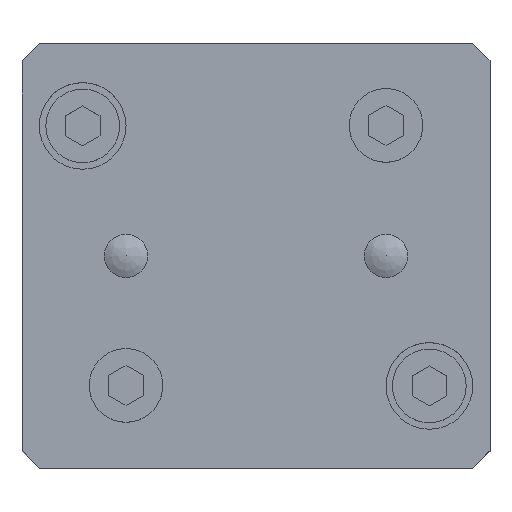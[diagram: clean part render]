
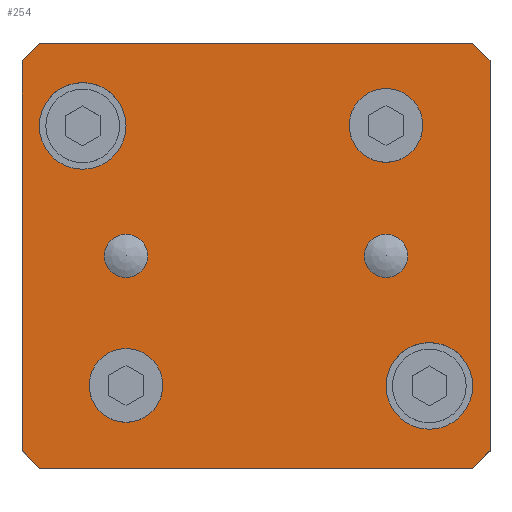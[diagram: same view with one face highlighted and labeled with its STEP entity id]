
A CAD part, top view. The second image highlights one B-rep face of the part: STEP entity #254.
In plain terms, the highlighted planar face has unit normal (0, 0, 1).
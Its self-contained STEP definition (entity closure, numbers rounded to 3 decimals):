
#254 = ADVANCED_FACE( '', ( #553, #554, #555, #556, #557, #558, #559 ), #560, .F. );
#553 = FACE_BOUND( '', #938, .T. );
#554 = FACE_BOUND( '', #939, .T. );
#555 = FACE_BOUND( '', #940, .T. );
#556 = FACE_BOUND( '', #941, .T. );
#557 = FACE_BOUND( '', #942, .T. );
#558 = FACE_BOUND( '', #943, .T. );
#559 = FACE_OUTER_BOUND( '', #944, .T. );
#560 = PLANE( '', #945 );
#938 = EDGE_LOOP( '', ( #1526 ) );
#939 = EDGE_LOOP( '', ( #1527 ) );
#940 = EDGE_LOOP( '', ( #1528 ) );
#941 = EDGE_LOOP( '', ( #1529 ) );
#942 = EDGE_LOOP( '', ( #1530 ) );
#943 = EDGE_LOOP( '', ( #1531 ) );
#944 = EDGE_LOOP( '', ( #1532, #1533, #1534, #1535, #1536, #1537, #1538, #1539 ) );
#945 = AXIS2_PLACEMENT_3D( '', #1540, #1541, #1542 );
#1526 = ORIENTED_EDGE( '', *, *, #1861, .F. );
#1527 = ORIENTED_EDGE( '', *, *, #1809, .T. );
#1528 = ORIENTED_EDGE( '', *, *, #1784, .F. );
#1529 = ORIENTED_EDGE( '', *, *, #1821, .F. );
#1530 = ORIENTED_EDGE( '', *, *, #1646, .T. );
#1531 = ORIENTED_EDGE( '', *, *, #1806, .T. );
#1532 = ORIENTED_EDGE( '', *, *, #1753, .F. );
#1533 = ORIENTED_EDGE( '', *, *, #1782, .T. );
#1534 = ORIENTED_EDGE( '', *, *, #1825, .F. );
#1535 = ORIENTED_EDGE( '', *, *, #1732, .T. );
#1536 = ORIENTED_EDGE( '', *, *, #1757, .F. );
#1537 = ORIENTED_EDGE( '', *, *, #1819, .T. );
#1538 = ORIENTED_EDGE( '', *, *, #1815, .F. );
#1539 = ORIENTED_EDGE( '', *, *, #1844, .T. );
#1540 = CARTESIAN_POINT( '', ( -27., 24.5, 0. ) );
#1541 = DIRECTION( '', ( 0., 0., -1. ) );
#1542 = DIRECTION( '', ( 0., 1., 0. ) );
#1646 = EDGE_CURVE( '', #1892, #1892, #1893, .T. );
#1732 = EDGE_CURVE( '', #2037, #2035, #2038, .F. );
#1753 = EDGE_CURVE( '', #2069, #2071, #2072, .T. );
#1757 = EDGE_CURVE( '', #2076, #2035, #2077, .T. );
#1782 = EDGE_CURVE( '', #2069, #2112, #2114, .F. );
#1784 = EDGE_CURVE( '', #2116, #2116, #2117, .T. );
#1806 = EDGE_CURVE( '', #2144, #2144, #2145, .T. );
#1809 = EDGE_CURVE( '', #2149, #2149, #2150, .T. );
#1815 = EDGE_CURVE( '', #2157, #2159, #2160, .T. );
#1819 = EDGE_CURVE( '', #2076, #2159, #2164, .F. );
#1821 = EDGE_CURVE( '', #2166, #2166, #2167, .T. );
#1825 = EDGE_CURVE( '', #2037, #2112, #2171, .T. );
#1844 = EDGE_CURVE( '', #2157, #2071, #2192, .F. );
#1861 = EDGE_CURVE( '', #2213, #2213, #2214, .T. );
#1892 = VERTEX_POINT( '', #2252 );
#1893 = CIRCLE( '', #2253, 5. );
#2035 = VERTEX_POINT( '', #2471 );
#2037 = VERTEX_POINT( '', #2474 );
#2038 = LINE( '', #2475, #2476 );
#2069 = VERTEX_POINT( '', #2547 );
#2071 = VERTEX_POINT( '', #2550 );
#2072 = LINE( '', #2551, #2552 );
#2076 = VERTEX_POINT( '', #2557 );
#2077 = LINE( '', #2558, #2559 );
#2112 = VERTEX_POINT( '', #2638 );
#2114 = LINE( '', #2641, #2642 );
#2116 = VERTEX_POINT( '', #2644 );
#2117 = CIRCLE( '', #2645, 2.5 );
#2144 = VERTEX_POINT( '', #2684 );
#2145 = CIRCLE( '', #2685, 5. );
#2149 = VERTEX_POINT( '', #2689 );
#2150 = CIRCLE( '', #2690, 2.5 );
#2157 = VERTEX_POINT( '', #2698 );
#2159 = VERTEX_POINT( '', #2701 );
#2160 = LINE( '', #2702, #2703 );
#2164 = LINE( '', #2709, #2710 );
#2166 = VERTEX_POINT( '', #2712 );
#2167 = CIRCLE( '', #2713, 2.5 );
#2171 = LINE( '', #2718, #2719 );
#2192 = LINE( '', #2750, #2751 );
#2213 = VERTEX_POINT( '', #2806 );
#2214 = CIRCLE( '', #2807, 2.5 );
#2252 = CARTESIAN_POINT( '', ( -25., 15., 0. ) );
#2253 = AXIS2_PLACEMENT_3D( '', #2832, #2833, #2834 );
#2471 = CARTESIAN_POINT( '', ( -25., -24.5, 0. ) );
#2474 = CARTESIAN_POINT( '', ( -27., -22.5, 0. ) );
#2475 = CARTESIAN_POINT( '', ( -27., -22.5, 0. ) );
#2476 = VECTOR( '', #2936, 1000. );
#2547 = CARTESIAN_POINT( '', ( -25., 24.5, 0. ) );
#2550 = CARTESIAN_POINT( '', ( 25., 24.5, 0. ) );
#2551 = CARTESIAN_POINT( '', ( -27., 24.5, 0. ) );
#2552 = VECTOR( '', #2960, 1000. );
#2557 = CARTESIAN_POINT( '', ( 25., -24.5, 0. ) );
#2558 = CARTESIAN_POINT( '', ( 27., -24.5, 0. ) );
#2559 = VECTOR( '', #2962, 1000. );
#2638 = CARTESIAN_POINT( '', ( -27., 22.5, 0. ) );
#2641 = CARTESIAN_POINT( '', ( -25., 24.5, 0. ) );
#2642 = VECTOR( '', #2984, 1000. );
#2644 = CARTESIAN_POINT( '', ( -12.5, -15., 0. ) );
#2645 = AXIS2_PLACEMENT_3D( '', #2985, #2986, #2987 );
#2684 = CARTESIAN_POINT( '', ( 25., -15., 0. ) );
#2685 = AXIS2_PLACEMENT_3D( '', #3000, #3001, #3002 );
#2689 = CARTESIAN_POINT( '', ( 17.5, 0., 0. ) );
#2690 = AXIS2_PLACEMENT_3D( '', #3006, #3007, #3008 );
#2698 = CARTESIAN_POINT( '', ( 27., 22.5, 0. ) );
#2701 = CARTESIAN_POINT( '', ( 27., -22.5, 0. ) );
#2702 = CARTESIAN_POINT( '', ( 27., 24.5, 0. ) );
#2703 = VECTOR( '', #3014, 1000. );
#2709 = CARTESIAN_POINT( '', ( 25., -24.5, 0. ) );
#2710 = VECTOR( '', #3017, 1000. );
#2712 = CARTESIAN_POINT( '', ( 17.5, 15., 0. ) );
#2713 = AXIS2_PLACEMENT_3D( '', #3018, #3019, #3020 );
#2718 = CARTESIAN_POINT( '', ( -27., -24.5, 0. ) );
#2719 = VECTOR( '', #3022, 1000. );
#2750 = CARTESIAN_POINT( '', ( 27., 22.5, 0. ) );
#2751 = VECTOR( '', #3033, 1000. );
#2806 = CARTESIAN_POINT( '', ( -17.5, 0., 0. ) );
#2807 = AXIS2_PLACEMENT_3D( '', #3047, #3048, #3049 );
#2832 = CARTESIAN_POINT( '', ( -20., 15., 0. ) );
#2833 = DIRECTION( '', ( 0., 0., -1. ) );
#2834 = DIRECTION( '', ( -1., 0., 0. ) );
#2936 = DIRECTION( '', ( -0.707, 0.707, 0. ) );
#2960 = DIRECTION( '', ( 1., 0., 0. ) );
#2962 = DIRECTION( '', ( -1., 0., 0. ) );
#2984 = DIRECTION( '', ( 0.707, 0.707, 0. ) );
#2985 = CARTESIAN_POINT( '', ( -15., -15., 0. ) );
#2986 = DIRECTION( '', ( 0., 0., 1. ) );
#2987 = DIRECTION( '', ( 1., 0., 0. ) );
#3000 = CARTESIAN_POINT( '', ( 20., -15., 0. ) );
#3001 = DIRECTION( '', ( 0., 0., -1. ) );
#3002 = DIRECTION( '', ( 1., 0., 0. ) );
#3006 = CARTESIAN_POINT( '', ( 15., 0., 0. ) );
#3007 = DIRECTION( '', ( 0., 0., -1. ) );
#3008 = DIRECTION( '', ( 1., 0., 0. ) );
#3014 = DIRECTION( '', ( 0., -1., 0. ) );
#3017 = DIRECTION( '', ( -0.707, -0.707, 0. ) );
#3018 = CARTESIAN_POINT( '', ( 15., 15., 0. ) );
#3019 = DIRECTION( '', ( 0., 0., 1. ) );
#3020 = DIRECTION( '', ( 1., 0., 0. ) );
#3022 = DIRECTION( '', ( 0., 1., 0. ) );
#3033 = DIRECTION( '', ( 0.707, -0.707, 0. ) );
#3047 = CARTESIAN_POINT( '', ( -15., 0., 0. ) );
#3048 = DIRECTION( '', ( 0., 0., 1. ) );
#3049 = DIRECTION( '', ( -1., 0., 0. ) );
